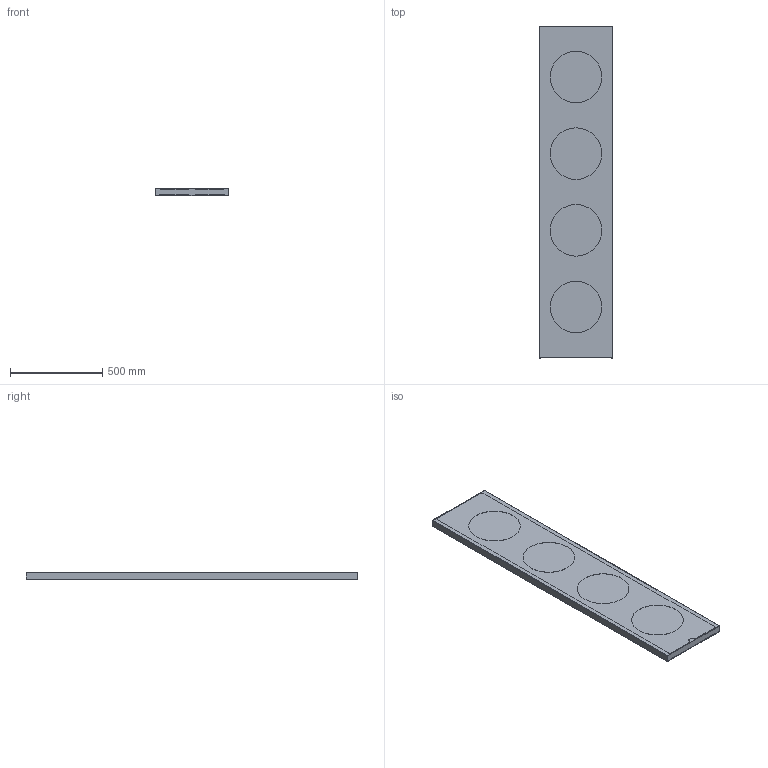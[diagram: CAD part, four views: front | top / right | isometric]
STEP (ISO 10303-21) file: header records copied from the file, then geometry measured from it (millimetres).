
FILE_DESCRIPTION (( 'STEP AP214' ), '1' );
FILE_NAME ('280_STD_F_LD_3D.STEP', '2021-05-24T13:33:19', ( '' ), ( '' ), 'SwSTEP 2.0', 'SolidWorks 2021', '' );
FILE_SCHEMA (( 'AUTOMOTIVE_DESIGN' ));
Length unit declared in the file: millimetre
Products named in the file (1): 280_STD_F_LD_3D
Bounding box: 400 x 1800 x 40 mm (x, y, z)
Volume: 4687947.7 mm3; surface area: 4100707 mm2
Topology: 5 solids, 5 shells, 212 faces, 534 edges, 332 vertices
Faces by surface type: cylinder 98, plane 86, cone 28
Entity records: 8844 total; most frequent: DIRECTION 1188, CARTESIAN_POINT 1079, ORIENTED_EDGE 1068, EDGE_CURVE 534, AXIS2_PLACEMENT_3D 441, VERTEX_POINT 332, VECTOR 306, LINE 306
